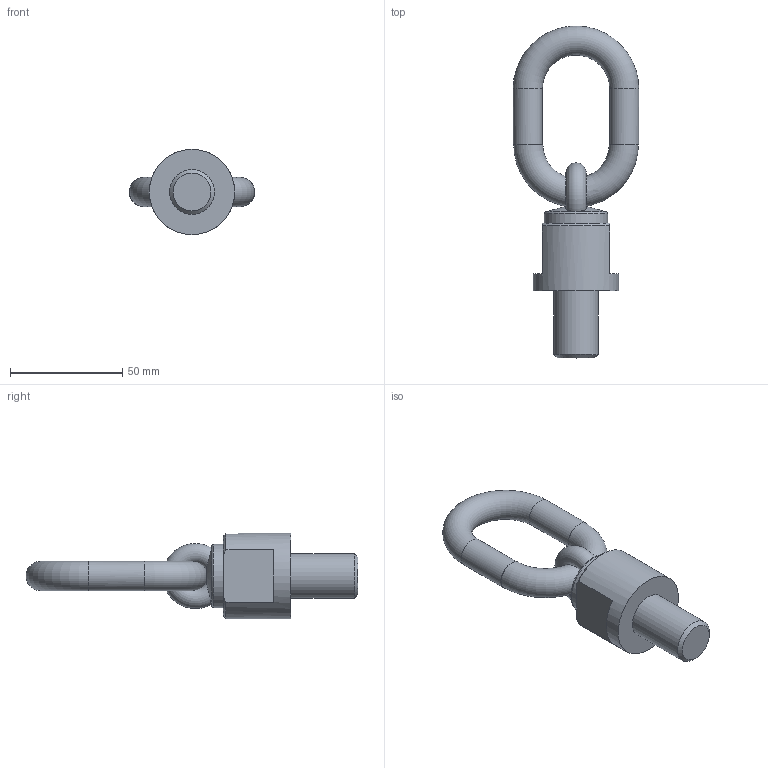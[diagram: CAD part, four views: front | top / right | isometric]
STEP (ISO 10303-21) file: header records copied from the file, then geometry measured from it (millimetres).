
FILE_DESCRIPTION( ( 'STEP AP203' ), '1' );
FILE_NAME( 'p:/temp/worker_5/temp/app_51_0201906261615342640608310e898ce_000000_00_00_000000/format_3/C8000102030.stp', '2019-06-26T14:15:35', ( '' ), ( '' ), ' ', 'PARTsolutions', ' ' );
FILE_SCHEMA( ( 'CONFIG_CONTROL_DESIGN' ) );
Length unit declared in the file: millimetre
Products named in the file (1): _C8000102030
Bounding box: 56 x 148 x 38 mm (x, y, z)
Volume: 71406.7 mm3; surface area: 16191.4 mm2
Topology: 1 solids, 1 shells, 25 faces, 65 edges, 40 vertices
Faces by surface type: plane 12, cylinder 5, torus 4, cone 4
Full cylindrical faces by diameter (mm): 13 x2, 20 x1, 28.2 x1, 38 x1
Entity records: 1030 total; most frequent: CARTESIAN_POINT 473, DIRECTION 110, ORIENTED_EDGE 86, AXIS2_PLACEMENT_3D 51, EDGE_CURVE 43, EDGE_LOOP 42, FACE_OUTER_BOUND 34, VERTEX_POINT 32
